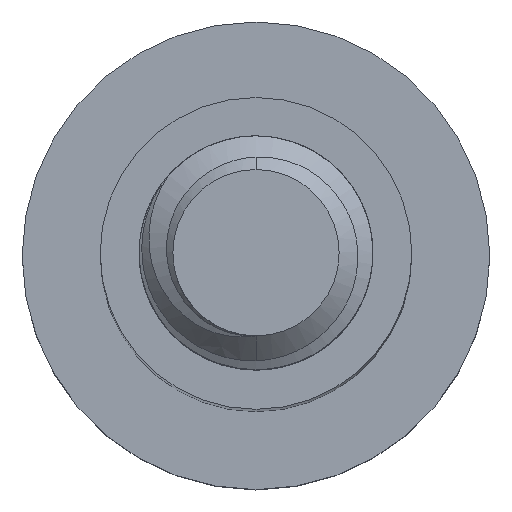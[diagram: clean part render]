
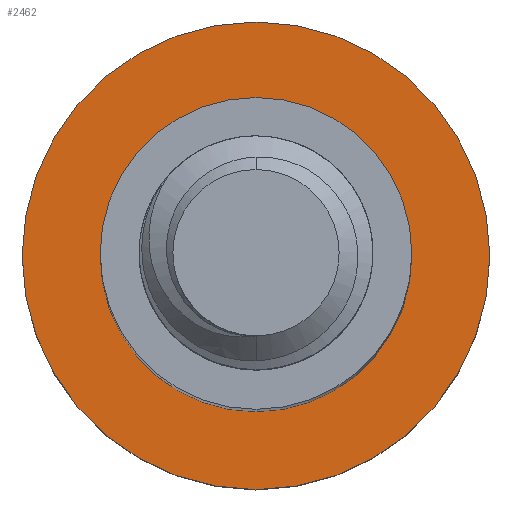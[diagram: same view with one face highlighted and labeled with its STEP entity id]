
A CAD part, top view. The second image highlights one B-rep face of the part: STEP entity #2462.
In plain terms, the highlighted planar face has unit normal (0, 0, 1).
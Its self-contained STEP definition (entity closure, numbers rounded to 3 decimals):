
#25 = CIRCLE ( 'NONE', #2426, 4. ) ;
#73 = VERTEX_POINT ( 'NONE', #2604 ) ;
#166 = EDGE_LOOP ( 'NONE', ( #597, #1031 ) ) ;
#597 = ORIENTED_EDGE ( 'NONE', *, *, #3888, .F. ) ;
#629 = VERTEX_POINT ( 'NONE', #952 ) ;
#668 = EDGE_CURVE ( 'NONE', #73, #3949, #25, .T. ) ;
#806 = DIRECTION ( 'NONE',  ( -1., 0., 0. ) ) ;
#848 = DIRECTION ( 'NONE',  ( 0., 0., -1. ) ) ;
#883 = VERTEX_POINT ( 'NONE', #1924 ) ;
#906 = DIRECTION ( 'NONE',  ( -1., 0., 0. ) ) ;
#952 = CARTESIAN_POINT ( 'NONE',  ( 6., 0., -35. ) ) ;
#999 = CIRCLE ( 'NONE', #1142, 6. ) ;
#1031 = ORIENTED_EDGE ( 'NONE', *, *, #2781, .F. ) ;
#1142 = AXIS2_PLACEMENT_3D ( 'NONE', #1635, #3875, #906 ) ;
#1236 = DIRECTION ( 'NONE',  ( -1., 0., 0. ) ) ;
#1261 = DIRECTION ( 'NONE',  ( 0., 0., -1. ) ) ;
#1506 = FACE_OUTER_BOUND ( 'NONE', #166, .T. ) ;
#1557 = DIRECTION ( 'NONE',  ( 0., 0., -1. ) ) ;
#1583 = CARTESIAN_POINT ( 'NONE',  ( 0., 0., -35. ) ) ;
#1635 = CARTESIAN_POINT ( 'NONE',  ( 0., 0., -35. ) ) ;
#1744 = CIRCLE ( 'NONE', #3687, 6. ) ;
#1918 = DIRECTION ( 'NONE',  ( -1., 0., 0. ) ) ;
#1924 = CARTESIAN_POINT ( 'NONE',  ( -6., 0., -35. ) ) ;
#2133 = EDGE_LOOP ( 'NONE', ( #2504, #3212 ) ) ;
#2321 = DIRECTION ( 'NONE',  ( 0., 0., -1. ) ) ;
#2371 = AXIS2_PLACEMENT_3D ( 'NONE', #2449, #848, #806 ) ;
#2394 = CARTESIAN_POINT ( 'NONE',  ( 4., 0., -35. ) ) ;
#2426 = AXIS2_PLACEMENT_3D ( 'NONE', #1583, #1261, #1918 ) ;
#2449 = CARTESIAN_POINT ( 'NONE',  ( 0., 0., -35. ) ) ;
#2462 = ADVANCED_FACE ( 'NONE', ( #3021, #1506 ), #2488, .F. ) ;
#2488 = PLANE ( 'NONE',  #2371 ) ;
#2504 = ORIENTED_EDGE ( 'NONE', *, *, #668, .T. ) ;
#2561 = CARTESIAN_POINT ( 'NONE',  ( 0., 0., -35. ) ) ;
#2604 = CARTESIAN_POINT ( 'NONE',  ( -4., 0., -35. ) ) ;
#2781 = EDGE_CURVE ( 'NONE', #883, #629, #1744, .T. ) ;
#2784 = AXIS2_PLACEMENT_3D ( 'NONE', #3433, #2321, #3644 ) ;
#3021 = FACE_BOUND ( 'NONE', #2133, .T. ) ;
#3023 = EDGE_CURVE ( 'NONE', #3949, #73, #4225, .T. ) ;
#3212 = ORIENTED_EDGE ( 'NONE', *, *, #3023, .T. ) ;
#3433 = CARTESIAN_POINT ( 'NONE',  ( 0., 0., -35. ) ) ;
#3644 = DIRECTION ( 'NONE',  ( -1., 0., 0. ) ) ;
#3687 = AXIS2_PLACEMENT_3D ( 'NONE', #2561, #1557, #1236 ) ;
#3875 = DIRECTION ( 'NONE',  ( 0., 0., -1. ) ) ;
#3888 = EDGE_CURVE ( 'NONE', #629, #883, #999, .T. ) ;
#3949 = VERTEX_POINT ( 'NONE', #2394 ) ;
#4225 = CIRCLE ( 'NONE', #2784, 4. ) ;
